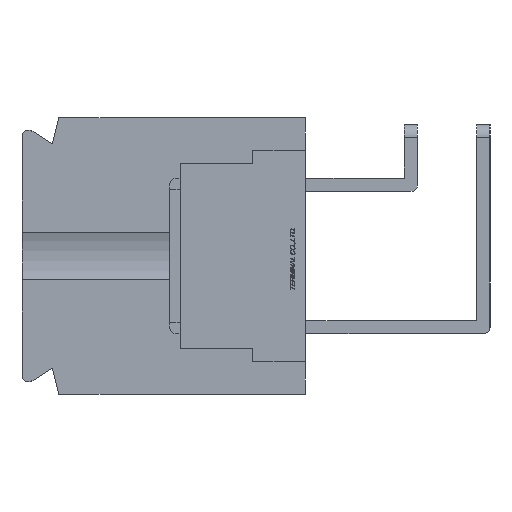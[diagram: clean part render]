
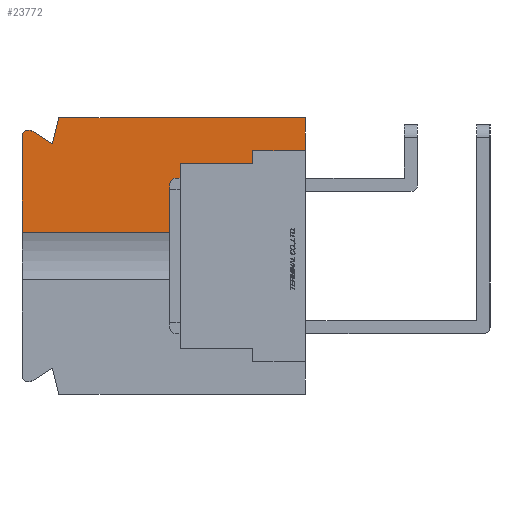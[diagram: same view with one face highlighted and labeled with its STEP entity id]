
A CAD part, left-side view. The second image highlights one B-rep face of the part: STEP entity #23772.
In plain terms, the highlighted planar face has unit normal (-1, 0, 0).
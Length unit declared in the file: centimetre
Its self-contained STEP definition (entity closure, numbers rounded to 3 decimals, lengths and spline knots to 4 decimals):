
#1087=CIRCLE('',#39881,0.05);
#1381=VERTEX_POINT('',#30908);
#1382=VERTEX_POINT('',#30910);
#2740=VERTEX_POINT('',#35208);
#2741=VERTEX_POINT('',#35210);
#2746=VERTEX_POINT('',#35221);
#2748=VERTEX_POINT('',#35227);
#2750=VERTEX_POINT('',#35233);
#2751=VERTEX_POINT('',#35240);
#2752=VERTEX_POINT('',#35242);
#2753=VERTEX_POINT('',#35244);
#2754=VERTEX_POINT('',#35246);
#3830=VECTOR('',#25626,1.);
#5376=VECTOR('',#28842,1.);
#5381=VECTOR('',#28856,1.);
#5384=VECTOR('',#28860,1.);
#5387=VECTOR('',#28864,1.);
#5388=VECTOR('',#28866,1.);
#5389=VECTOR('',#28867,1.);
#5390=VECTOR('',#28868,1.);
#5391=VECTOR('',#28869,1.);
#5392=VECTOR('',#28870,1.);
#6619=LINE('',#30909,#3830);
#8165=LINE('',#35209,#5376);
#8170=LINE('',#35226,#5381);
#8173=LINE('',#35232,#5384);
#8176=LINE('',#35237,#5387);
#8177=LINE('',#35239,#5388);
#8178=LINE('',#35241,#5389);
#8179=LINE('',#35243,#5390);
#8180=LINE('',#35245,#5391);
#8181=LINE('',#35247,#5392);
#9454=EDGE_CURVE('',#1381,#1382,#6619,.T.);
#11507=EDGE_CURVE('',#2740,#2741,#8165,.T.);
#11514=EDGE_CURVE('',#2741,#2746,#1087,.T.);
#11517=EDGE_CURVE('',#2746,#2748,#8170,.T.);
#11520=EDGE_CURVE('',#2748,#2750,#8173,.T.);
#11523=EDGE_CURVE('',#2750,#1381,#8176,.T.);
#11524=EDGE_CURVE('',#2751,#1382,#8177,.T.);
#11525=EDGE_CURVE('',#2740,#2752,#8178,.T.);
#11526=EDGE_CURVE('',#2752,#2753,#8179,.T.);
#11527=EDGE_CURVE('',#2753,#2754,#8180,.T.);
#11528=EDGE_CURVE('',#2754,#2751,#8181,.T.);
#17410=ORIENTED_EDGE('',*,*,#11524,.T.);
#17411=ORIENTED_EDGE('',*,*,#9454,.F.);
#17412=ORIENTED_EDGE('',*,*,#11523,.F.);
#17413=ORIENTED_EDGE('',*,*,#11520,.F.);
#17414=ORIENTED_EDGE('',*,*,#11517,.F.);
#17415=ORIENTED_EDGE('',*,*,#11514,.F.);
#17416=ORIENTED_EDGE('',*,*,#11507,.F.);
#17417=ORIENTED_EDGE('',*,*,#11525,.T.);
#17418=ORIENTED_EDGE('',*,*,#11526,.T.);
#17419=ORIENTED_EDGE('',*,*,#11527,.T.);
#17420=ORIENTED_EDGE('',*,*,#11528,.T.);
#20916=EDGE_LOOP('',(#17410,#17411,#17412,#17413,#17414,#17415,#17416,#17417,
#17418,#17419,#17420));
#22394=FACE_BOUND('',#20916,.T.);
#23772=ADVANCED_FACE('',(#22394),#24870,.F.);
#24870=PLANE('',#39885);
#25626=DIRECTION('',(0.,0.,-1.));
#28842=DIRECTION('',(0.,0.,1.));
#28851=DIRECTION('',(1.,0.,0.));
#28852=DIRECTION('',(0.,0.,-0.05));
#28856=DIRECTION('',(0.,-0.844,-0.536));
#28860=DIRECTION('',(0.,-0.243,0.97));
#28864=DIRECTION('',(0.,-1.,0.));
#28865=DIRECTION('',(1.,0.,0.));
#28866=DIRECTION('',(0.,-1.,0.));
#28867=DIRECTION('',(0.,-1.,0.));
#28868=DIRECTION('',(0.,0.,1.));
#28869=DIRECTION('',(0.,-1.,0.));
#28870=DIRECTION('',(0.,0.,1.));
#30908=CARTESIAN_POINT('',(-1.1,0.,1.05));
#30909=CARTESIAN_POINT('',(-1.1,0.,1.05));
#30910=CARTESIAN_POINT('',(-1.1,0.,0.8));
#35208=CARTESIAN_POINT('',(-1.1,2.15,0.1809));
#35209=CARTESIAN_POINT('',(-1.1,2.15,-0.905));
#35210=CARTESIAN_POINT('',(-1.1,2.15,0.905));
#35220=CARTESIAN_POINT('',(-1.1,2.1,0.905));
#35221=CARTESIAN_POINT('',(-1.1,2.0742,0.9478));
#35226=CARTESIAN_POINT('',(-1.1,2.0742,0.9478));
#35227=CARTESIAN_POINT('',(-1.1,1.92,0.85));
#35232=CARTESIAN_POINT('',(-1.1,1.92,0.85));
#35233=CARTESIAN_POINT('',(-1.1,1.87,1.05));
#35237=CARTESIAN_POINT('',(-1.1,1.87,1.05));
#35238=CARTESIAN_POINT('',(-1.1,1.082,0.));
#35239=CARTESIAN_POINT('',(-1.1,0.641,0.8));
#35240=CARTESIAN_POINT('',(-1.1,0.4,0.8));
#35241=CARTESIAN_POINT('',(-1.1,1.55,0.1809));
#35242=CARTESIAN_POINT('',(-1.1,0.95,0.1809));
#35243=CARTESIAN_POINT('',(-1.1,0.95,0.));
#35244=CARTESIAN_POINT('',(-1.1,0.95,0.7));
#35245=CARTESIAN_POINT('',(-1.1,0.8785,0.7));
#35246=CARTESIAN_POINT('',(-1.1,0.4,0.7));
#35247=CARTESIAN_POINT('',(-1.1,0.4,0.375));
#39881=AXIS2_PLACEMENT_3D('',#35220,#28851,#28852);
#39885=AXIS2_PLACEMENT_3D('',#35238,#28865,$);
